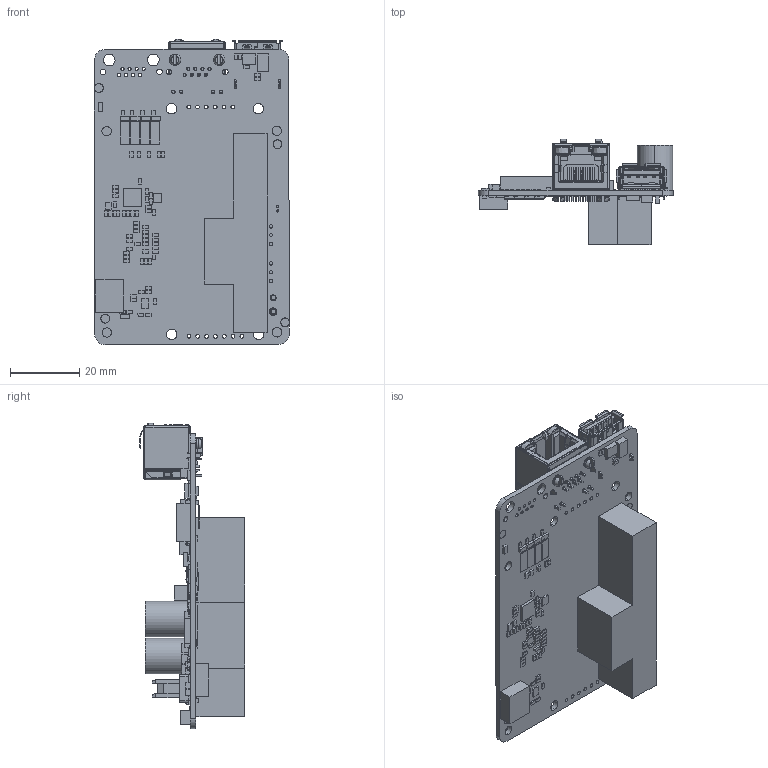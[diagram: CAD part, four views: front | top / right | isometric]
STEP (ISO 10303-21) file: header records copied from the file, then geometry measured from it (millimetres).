
FILE_DESCRIPTION((''),'2;1');
FILE_NAME('0_UP-APL03-POE_PCB_ASM','2023-03-29T',('WillyChen'),(''),'PRO/ENGINEER BY PARAMETRIC TECHNOLOGY CORPORATION, 2016010','PRO/ENGINEER BY PARAMETRIC TECHNOLOGY CORPORATION, 2016010','');
FILE_SCHEMA(('CONFIG_CONTROL_DESIGN'));
Products named in the file (8): UPCR-POE1_A10-230105STP_ASM; AG5300_ASM; 1655102010; 1655X00031; 1654904130; 1654800938; 165281220E; 0_UP-APL03-POE_PCB_ASM
Assembly tree (7 placements, depth 2):
  0_UP-APL03-POE_PCB_ASM
    UPCR-POE1_A10-230105STP_ASM
    AG5300_ASM
    1655102010
    1655X00031
    1654904130
    1654800938
    165281220E
Bounding box: 56.22 x 30.28 x 87.93 mm (x, y, z)
Volume: 16349.7 mm3; surface area: 27024.1 mm2
Topology: 250 solids, 1480 shells, 5070 faces, 16880 edges, 13408 vertices
Faces by surface type: plane 4126, cylinder 878, bspline 36, sphere 16, cone 6, torus 4, revolution 4
Entity records: 189206 total; most frequent: CARTESIAN_POINT 44129, DIRECTION 27608, ORIENTED_EDGE 26812, EDGE_CURVE 16862, VECTOR 13850, LINE 13850, VERTEX_POINT 13408, AXIS2_PLACEMENT_3D 6877
